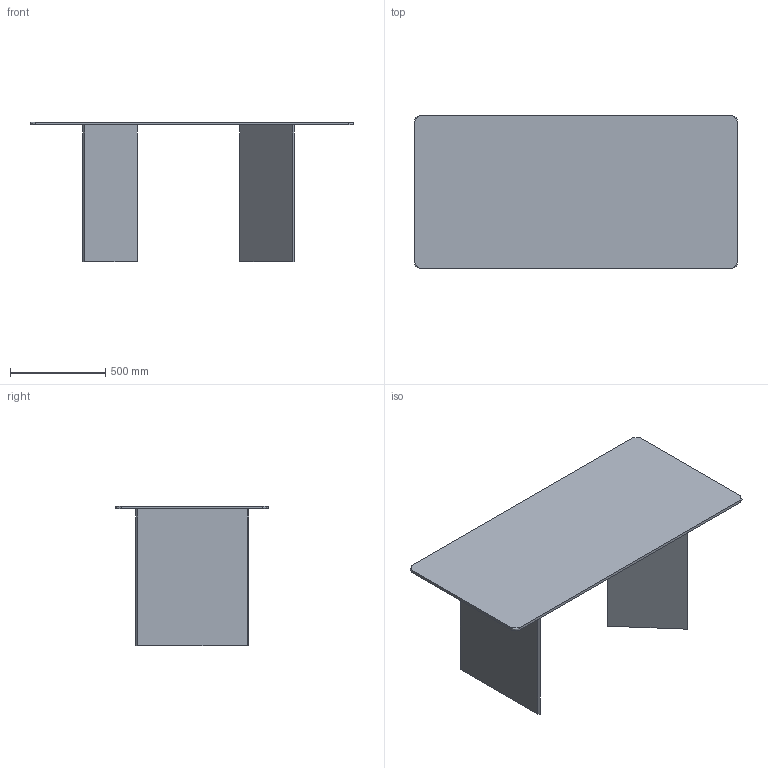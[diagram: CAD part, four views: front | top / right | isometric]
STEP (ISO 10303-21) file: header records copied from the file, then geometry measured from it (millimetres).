
FILE_DESCRIPTION(/* description */ (''),/* implementation_level */ '2;1');
FILE_NAME(/* name */ '216614 - corner 170x80',/* time_stamp */ '2014-07-31T16:06:04+02:00',/* author */ (''),/* organization */ (''),/* preprocessor_version */ 'ST-DEVELOPER v10',/* originating_system */ '',/* authorisation */ '');
FILE_SCHEMA (('CONFIG_CONTROL_DESIGN'));
Length unit declared in the file: millimetre
Products named in the file (1): 1
Bounding box: 1700 x 800 x 735 mm (x, y, z)
Volume: 35437745.5 mm3; surface area: 5229958.2 mm2
Topology: 3 solids, 3 shells, 24 faces, 68 edges, 46 vertices
Faces by surface type: plane 16, bspline 8
Entity records: 834 total; most frequent: CARTESIAN_POINT 341, ORIENTED_EDGE 108, EDGE_CURVE 54, VERTEX_POINT 36, B_SPLINE_CURVE_WITH_KNOTS 32, DIRECTION 30, ADVANCED_FACE 24, FACE_OUTER_BOUND 24
